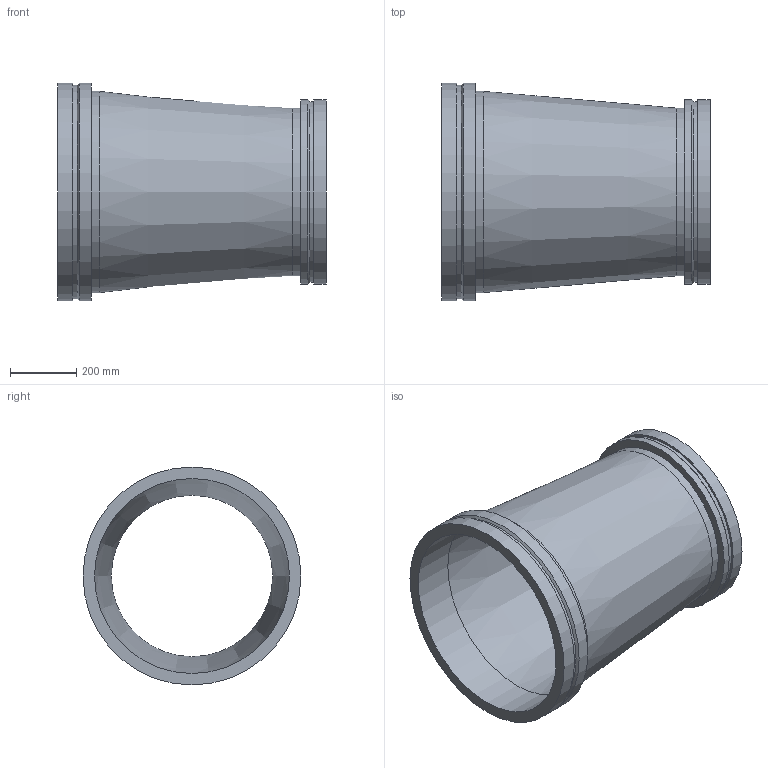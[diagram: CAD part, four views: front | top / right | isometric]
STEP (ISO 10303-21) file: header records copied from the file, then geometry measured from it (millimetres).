
FILE_DESCRIPTION(/* description */ ('VIC REDUCER CONCENTRIC No W50 VR','CAx-IF Rec.Pracs.---Representation and Presentation of Product Manufacturing Information (PMI)---4.0---2014-10-13'),/* implementation_level */ '2;1');
FILE_NAME(/* name */ 'C:\Users\kkamble\AppData\Roaming\Autodesk\ApplicationPlugins\Back Up\Victaulic_Vic-Ring_Reducer Concentric_No W50 VR (AGR)\Victaulic_Vic-Ring_Reducer Concentric_No W50 VR (AGR)_24.0x20.0 (600x500).stp',/* time_stamp */ '2020-09-10T11:45:49+05:00',/* author */ ('cps_temp'),/* organization */ ('Victaulic'),/* preprocessor_version */ 'ST-DEVELOPER v17.2',/* originating_system */ 'Autodesk Inventor 2019',/* authorisation */ '');
FILE_SCHEMA (('AP242_MANAGED_MODEL_BASED_3D_ENGINEERING_MIM_LF { 1 0 10303 442 1 1 4 }'));
Length unit declared in the file: inch
Products named in the file (1): W50 VR-24.0x20.0
Bounding box: 812.8 x 660.4 x 660.4 mm (x, y, z)
Volume: 21385560.2 mm3; surface area: 3105182 mm2
Topology: 1 solids, 1 shells, 20 faces, 54 edges, 40 vertices
Faces by surface type: cylinder 10, plane 6, cone 4
Full cylindrical faces by diameter (mm): 488.95 x1, 508 x1, 546.1 x1, 558.8 x2, 590.55 x1, 609.6 x1, 645.922 x1, 660.4 x2
Entity records: 830 total; most frequent: DIRECTION 162, CARTESIAN_POINT 132, ORIENTED_EDGE 108, AXIS2_PLACEMENT_3D 74, EDGE_CURVE 54, CIRCLE 40, VERTEX_POINT 40, EDGE_LOOP 26
